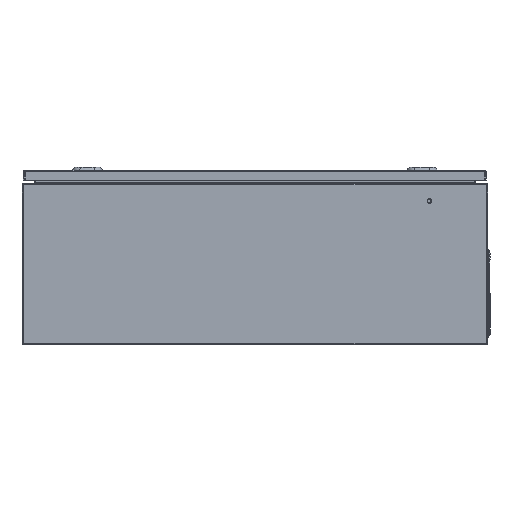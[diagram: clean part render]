
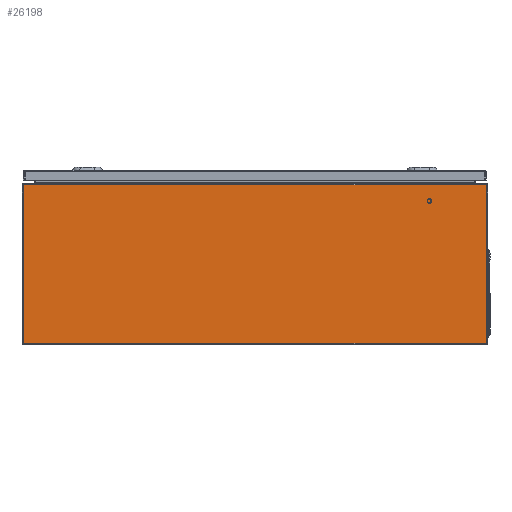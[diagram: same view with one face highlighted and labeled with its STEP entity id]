
A CAD part, left-side view. The second image highlights one B-rep face of the part: STEP entity #26198.
In plain terms, the highlighted planar face has unit normal (-1, 0, 0).
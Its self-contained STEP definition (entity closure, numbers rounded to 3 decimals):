
#771 = VECTOR ( 'NONE', #22891, 1000. ) ;
#1669 = EDGE_CURVE ( 'NONE', #4673, #8258, #23470, .T. ) ;
#1783 = CARTESIAN_POINT ( 'NONE',  ( -400., 397.5, 2.35 ) ) ;
#3167 = ORIENTED_EDGE ( 'NONE', *, *, #14164, .F. ) ;
#3262 = EDGE_CURVE ( 'NONE', #8258, #23630, #8163, .T. ) ;
#3761 = LINE ( 'NONE', #16036, #22632 ) ;
#4380 = CARTESIAN_POINT ( 'NONE',  ( -400., -397.5, 1.5 ) ) ;
#4673 = VERTEX_POINT ( 'NONE', #1783 ) ;
#5090 = DIRECTION ( 'NONE',  ( 1., 0., 0. ) ) ;
#6672 = CARTESIAN_POINT ( 'NONE',  ( -400., 400., 274.5 ) ) ;
#6712 = DIRECTION ( 'NONE',  ( 0., -1., 0. ) ) ;
#6949 = ORIENTED_EDGE ( 'NONE', *, *, #3262, .T. ) ;
#7665 = PLANE ( 'NONE',  #24859 ) ;
#8163 = LINE ( 'NONE', #4380, #771 ) ;
#8258 = VERTEX_POINT ( 'NONE', #8774 ) ;
#8774 = CARTESIAN_POINT ( 'NONE',  ( -400., -397.5, 2.35 ) ) ;
#11813 = ORIENTED_EDGE ( 'NONE', *, *, #14821, .T. ) ;
#12149 = ORIENTED_EDGE ( 'NONE', *, *, #1669, .T. ) ;
#12654 = LINE ( 'NONE', #6672, #18967 ) ;
#14164 = EDGE_CURVE ( 'NONE', #19839, #23630, #12654, .T. ) ;
#14821 = EDGE_CURVE ( 'NONE', #19839, #4673, #3761, .T. ) ;
#15994 = CARTESIAN_POINT ( 'NONE',  ( -400., -400., 1.5 ) ) ;
#16036 = CARTESIAN_POINT ( 'NONE',  ( -400., 397.5, 1.5 ) ) ;
#18967 = VECTOR ( 'NONE', #19478, 1000. ) ;
#19478 = DIRECTION ( 'NONE',  ( 0., -1., 0. ) ) ;
#19777 = VECTOR ( 'NONE', #6712, 1000. ) ;
#19839 = VERTEX_POINT ( 'NONE', #23320 ) ;
#21988 = FACE_OUTER_BOUND ( 'NONE', #23490, .T. ) ;
#22632 = VECTOR ( 'NONE', #26387, 1000. ) ;
#22891 = DIRECTION ( 'NONE',  ( 0., 0., 1. ) ) ;
#23204 = CARTESIAN_POINT ( 'NONE',  ( -400., -400., 2.35 ) ) ;
#23320 = CARTESIAN_POINT ( 'NONE',  ( -400., 397.5, 274.5 ) ) ;
#23470 = LINE ( 'NONE', #23204, #19777 ) ;
#23490 = EDGE_LOOP ( 'NONE', ( #11813, #12149, #6949, #3167 ) ) ;
#23580 = CARTESIAN_POINT ( 'NONE',  ( -400., -397.5, 274.5 ) ) ;
#23630 = VERTEX_POINT ( 'NONE', #23580 ) ;
#24859 = AXIS2_PLACEMENT_3D ( 'NONE', #15994, #5090, #25928 ) ;
#25928 = DIRECTION ( 'NONE',  ( 0., 0., -1. ) ) ;
#26198 = ADVANCED_FACE ( 'NONE', ( #21988 ), #7665, .F. ) ;
#26387 = DIRECTION ( 'NONE',  ( 0., 0., -1. ) ) ;
